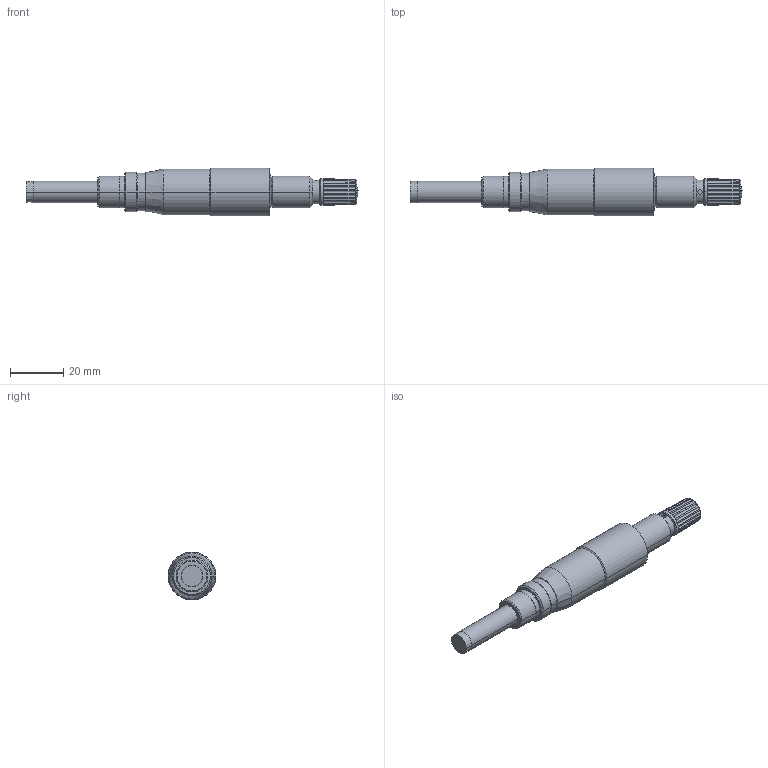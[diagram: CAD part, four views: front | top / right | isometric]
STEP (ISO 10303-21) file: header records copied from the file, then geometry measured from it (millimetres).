
FILE_DESCRIPTION(('Creo Elements/Direct Modeling STEP Export'),'2;1');
FILE_NAME('153-201_MHK-25R.stp','2014-02-06T19:34:08',(''),(''),'Creo Elements/Direct Modeling STEP processor for AP214 (Solid Model)','Creo Elements/Direct Modeling 18.1B 29-Sep-2012 (C) Parametric Technology GmbH','');
FILE_SCHEMA(('AUTOMOTIVE_DESIGN { 1 0 10303 214 1 1 1 1 }'));
Length unit declared in the file: millimetre
Products named in the file (1): 153-201_MHK-25R
Bounding box: 124.55 x 18 x 18 mm (x, y, z)
Volume: 17762.7 mm3; surface area: 5723 mm2
Topology: 1 solids, 1 shells, 121 faces, 299 edges, 190 vertices
Faces by surface type: cylinder 48, plane 45, cone 26, sphere 2
Entity records: 4282 total; most frequent: CARTESIAN_POINT 1501, ORIENTED_EDGE 598, DIRECTION 536, EDGE_CURVE 299, AXIS2_PLACEMENT_3D 229, VERTEX_POINT 190, EDGE_LOOP 131, FACE_OUTER_BOUND 121
